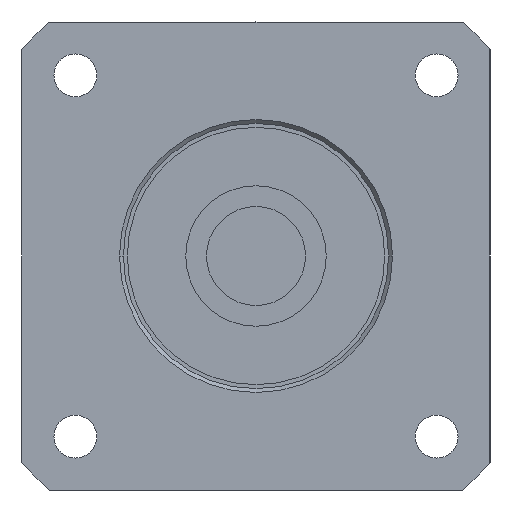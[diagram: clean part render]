
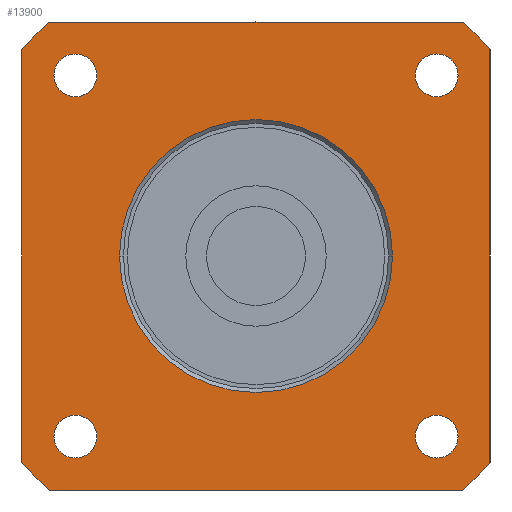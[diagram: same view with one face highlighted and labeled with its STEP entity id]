
A CAD part, left-side view. The second image highlights one B-rep face of the part: STEP entity #13900.
In plain terms, the highlighted planar face has unit normal (-1, 0, 0) as drawn and (0, 0, -1) by its records, which use the part's own axes.
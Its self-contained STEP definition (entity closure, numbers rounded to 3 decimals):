
#9000=CARTESIAN_POINT('',(-23.158,25.908,-35.));
#9010=VERTEX_POINT('',#9000);
#9090=CARTESIAN_POINT('',(-23.158,20.408,-35.));
#9100=VERTEX_POINT('',#9090);
#9130=CARTESIAN_POINT('',(-23.158,23.158,-35.));
#9140=DIRECTION('',(0.,0.,1.));
#9150=DIRECTION('',(0.,1.,0.));
#9160=AXIS2_PLACEMENT_3D('',#9130,#9140,#9150);
#9170=CIRCLE('',#9160,2.75);
#9180=EDGE_CURVE('',#9100,#9010,#9170,.T.);
#12280=CARTESIAN_POINT('',(17.5,0.,-35.));
#12290=VERTEX_POINT('',#12280);
#12320=CARTESIAN_POINT('',(0.,0.,
-35.));
#12330=DIRECTION('',(0.,0.,1.));
#12340=DIRECTION('',(0.,1.,0.));
#12350=AXIS2_PLACEMENT_3D('',#12320,#12330,#12340);
#12360=CIRCLE('',#12350,17.5);
#12370=CARTESIAN_POINT('',(0.,17.5,-35.));
#12380=VERTEX_POINT('',#12370);
#12390=EDGE_CURVE('',#12290,#12380,#12360,.T.);
#12410=CARTESIAN_POINT('',(-17.5,0.,-35.));
#12420=VERTEX_POINT('',#12410);
#12430=EDGE_CURVE('',#12380,#12420,#12360,.T.);
#12590=CARTESIAN_POINT('',(0.,-40.,-35.));
#12600=DIRECTION('',(0.,0.,1.));
#12610=DIRECTION('',(0.,1.,0.));
#12620=AXIS2_PLACEMENT_3D('',#12590,#12600,#12610);
#12630=PLANE('',#12620);
#12640=EDGE_CURVE('',#12420,#12290,#12360,.T.);
#12650=ORIENTED_EDGE('',*,*,#12640,.T.);
#12660=ORIENTED_EDGE('',*,*,#12430,.T.);
#12670=ORIENTED_EDGE('',*,*,#12390,.T.);
#12680=EDGE_LOOP('',(#12670,#12660,#12650));
#12690=FACE_BOUND('',#12680,.T.);
#12700=CARTESIAN_POINT('',(23.158,-23.158,-35.));
#12710=DIRECTION('',(0.,0.,1.));
#12720=DIRECTION('',(0.,1.,0.));
#12730=AXIS2_PLACEMENT_3D('',#12700,#12710,#12720);
#12740=CIRCLE('',#12730,2.75);
#12750=CARTESIAN_POINT('',(23.158,-20.408,-35.));
#12760=VERTEX_POINT('',#12750);
#12770=CARTESIAN_POINT('',(23.158,-25.908,-35.));
#12780=VERTEX_POINT('',#12770);
#12790=EDGE_CURVE('',#12760,#12780,#12740,.T.);
#12800=ORIENTED_EDGE('',*,*,#12790,.T.);
#12810=EDGE_CURVE('',#12780,#12760,#12740,.T.);
#12820=ORIENTED_EDGE('',*,*,#12810,.T.);
#12830=EDGE_LOOP('',(#12820,#12800));
#12840=FACE_BOUND('',#12830,.T.);
#12850=CARTESIAN_POINT('',(-23.158,-23.158,-35.));
#12860=DIRECTION('',(0.,0.,1.));
#12870=DIRECTION('',(0.,1.,0.));
#12880=AXIS2_PLACEMENT_3D('',#12850,#12860,#12870);
#12890=CIRCLE('',#12880,2.75);
#12900=CARTESIAN_POINT('',(-23.158,-20.408,-35.));
#12910=VERTEX_POINT('',#12900);
#12920=CARTESIAN_POINT('',(-23.158,-25.908,-35.));
#12930=VERTEX_POINT('',#12920);
#12940=EDGE_CURVE('',#12910,#12930,#12890,.T.);
#12950=ORIENTED_EDGE('',*,*,#12940,.T.);
#12960=EDGE_CURVE('',#12930,#12910,#12890,.T.);
#12970=ORIENTED_EDGE('',*,*,#12960,.T.);
#12980=EDGE_LOOP('',(#12970,#12950));
#12990=FACE_BOUND('',#12980,.T.);
#13000=EDGE_CURVE('',#9010,#9100,#9170,.T.);
#13010=ORIENTED_EDGE('',*,*,#13000,.T.);
#13020=ORIENTED_EDGE('',*,*,#9180,.T.);
#13030=EDGE_LOOP('',(#13020,#13010));
#13040=FACE_BOUND('',#13030,.T.);
#13050=CARTESIAN_POINT('',(23.158,23.158,-35.));
#13060=DIRECTION('',(0.,0.,1.));
#13070=DIRECTION('',(0.,1.,0.));
#13080=AXIS2_PLACEMENT_3D('',#13050,#13060,#13070);
#13090=CIRCLE('',#13080,2.75);
#13100=CARTESIAN_POINT('',(23.158,25.908,-35.));
#13110=VERTEX_POINT('',#13100);
#13120=CARTESIAN_POINT('',(23.158,20.408,-35.));
#13130=VERTEX_POINT('',#13120);
#13140=EDGE_CURVE('',#13110,#13130,#13090,.T.);
#13150=ORIENTED_EDGE('',*,*,#13140,.T.);
#13160=EDGE_CURVE('',#13130,#13110,#13090,.T.);
#13170=ORIENTED_EDGE('',*,*,#13160,.T.);
#13180=EDGE_LOOP('',(#13170,#13150));
#13190=FACE_BOUND('',#13180,.T.);
#13200=CARTESIAN_POINT('',(0.,0.,
-35.));
#13210=DIRECTION('',(0.,0.,1.));
#13220=DIRECTION('',(0.,1.,0.));
#13230=AXIS2_PLACEMENT_3D('',#13200,#13210,#13220);
#13240=CIRCLE('',#13230,40.);
#13250=CARTESIAN_POINT('',(-30.,-26.458,-35.));
#13260=VERTEX_POINT('',#13250);
#13270=CARTESIAN_POINT('',(-26.458,-30.,-35.));
#13280=VERTEX_POINT('',#13270);
#13290=EDGE_CURVE('',#13260,#13280,#13240,.T.);
#13300=ORIENTED_EDGE('',*,*,#13290,.F.);
#13310=CARTESIAN_POINT('',(30.,-30.,-35.));
#13320=DIRECTION('',(-1.,0.,0.));
#13330=VECTOR('',#13320,1000.);
#13340=LINE('',#13310,#13330);
#13350=CARTESIAN_POINT('',(26.458,-30.,-35.));
#13360=VERTEX_POINT('',#13350);
#13370=EDGE_CURVE('',#13360,#13280,#13340,.T.);
#13380=ORIENTED_EDGE('',*,*,#13370,.T.);
#13390=CARTESIAN_POINT('',(0.,0.,
-35.));
#13400=DIRECTION('',(0.,0.,1.));
#13410=DIRECTION('',(0.,1.,0.));
#13420=AXIS2_PLACEMENT_3D('',#13390,#13400,#13410);
#13430=CIRCLE('',#13420,40.);
#13440=CARTESIAN_POINT('',(30.,-26.458,-35.));
#13450=VERTEX_POINT('',#13440);
#13460=EDGE_CURVE('',#13360,#13450,#13430,.T.);
#13470=ORIENTED_EDGE('',*,*,#13460,.F.);
#13480=CARTESIAN_POINT('',(30.,30.,-35.));
#13490=DIRECTION('',(0.,-1.,0.));
#13500=VECTOR('',#13490,1000.);
#13510=LINE('',#13480,#13500);
#13520=CARTESIAN_POINT('',(30.,26.458,-35.));
#13530=VERTEX_POINT('',#13520);
#13540=EDGE_CURVE('',#13530,#13450,#13510,.T.);
#13550=ORIENTED_EDGE('',*,*,#13540,.T.);
#13560=CARTESIAN_POINT('',(0.,0.,
-35.));
#13570=DIRECTION('',(0.,0.,1.));
#13580=DIRECTION('',(0.,1.,0.));
#13590=AXIS2_PLACEMENT_3D('',#13560,#13570,#13580);
#13600=CIRCLE('',#13590,40.);
#13610=CARTESIAN_POINT('',(26.458,30.,-35.));
#13620=VERTEX_POINT('',#13610);
#13630=EDGE_CURVE('',#13530,#13620,#13600,.T.);
#13640=ORIENTED_EDGE('',*,*,#13630,.F.);
#13650=CARTESIAN_POINT('',(-30.,30.,-35.));
#13660=DIRECTION('',(1.,0.,0.));
#13670=VECTOR('',#13660,1000.);
#13680=LINE('',#13650,#13670);
#13690=CARTESIAN_POINT('',(-26.458,30.,-35.));
#13700=VERTEX_POINT('',#13690);
#13710=EDGE_CURVE('',#13700,#13620,#13680,.T.);
#13720=ORIENTED_EDGE('',*,*,#13710,.T.);
#13730=CARTESIAN_POINT('',(0.,0.,
-35.));
#13740=DIRECTION('',(0.,0.,1.));
#13750=DIRECTION('',(0.,1.,0.));
#13760=AXIS2_PLACEMENT_3D('',#13730,#13740,#13750);
#13770=CIRCLE('',#13760,40.);
#13780=CARTESIAN_POINT('',(-30.,26.458,-35.));
#13790=VERTEX_POINT('',#13780);
#13800=EDGE_CURVE('',#13700,#13790,#13770,.T.);
#13810=ORIENTED_EDGE('',*,*,#13800,.F.);
#13820=CARTESIAN_POINT('',(-30.,-30.,-35.));
#13830=DIRECTION('',(0.,1.,0.));
#13840=VECTOR('',#13830,1000.);
#13850=LINE('',#13820,#13840);
#13860=EDGE_CURVE('',#13260,#13790,#13850,.T.);
#13870=ORIENTED_EDGE('',*,*,#13860,.T.);
#13880=EDGE_LOOP('',(#13870,#13810,#13720,#13640,#13550,#13470,#13380,
#13300));
#13890=FACE_OUTER_BOUND('',#13880,.T.);
#13900=ADVANCED_FACE('',(#12690,#12840,#12990,#13040,#13190,#13890),
#12630,.F.);
